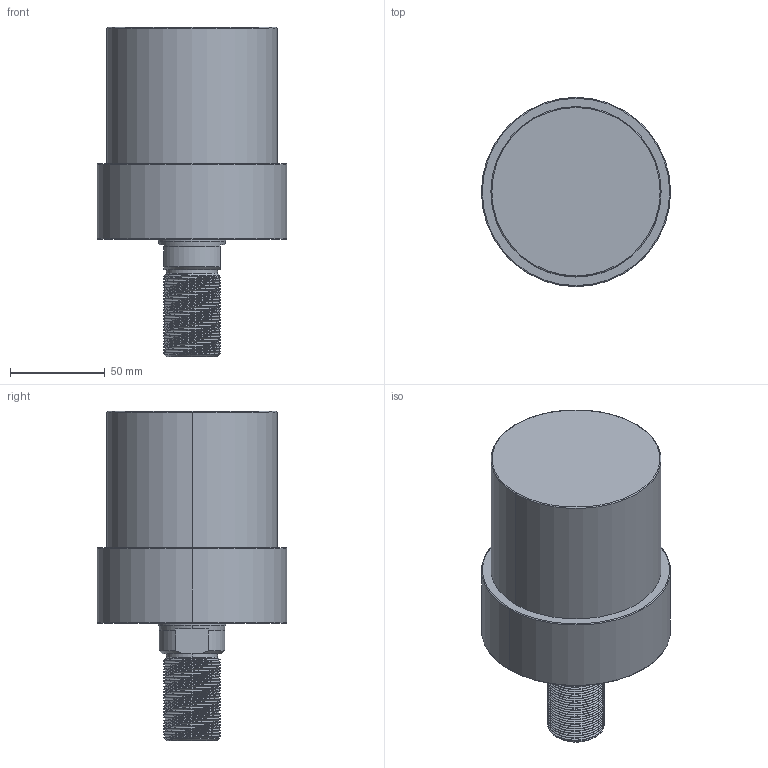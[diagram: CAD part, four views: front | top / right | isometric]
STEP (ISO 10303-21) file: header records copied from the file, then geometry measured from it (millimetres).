
FILE_DESCRIPTION (( 'STEP AP203' ), '1' );
FILE_NAME ('CLLU-090GT-050.STEP', '2020-01-13T02:41:48', ( '' ), ( '' ), 'SwSTEP 2.0', 'SolidWorks 2015', '' );
FILE_SCHEMA (( 'CONFIG_CONTROL_DESIGN' ));
Length unit declared in the file: millimetre
Products named in the file (1): CLLU-090GT-050
Bounding box: 100 x 100 x 174 mm (x, y, z)
Volume: 810811.5 mm3; surface area: 60178.1 mm2
Topology: 1 solids, 1 shells, 123 faces, 321 edges, 201 vertices
Faces by surface type: cylinder 78, cone 26, plane 11, torus 6, bspline 2
Entity records: 7144 total; most frequent: CARTESIAN_POINT 4409, ORIENTED_EDGE 626, DIRECTION 501, EDGE_CURVE 313, VERTEX_POINT 201, AXIS2_PLACEMENT_3D 197, EDGE_LOOP 132, ADVANCED_FACE 123
